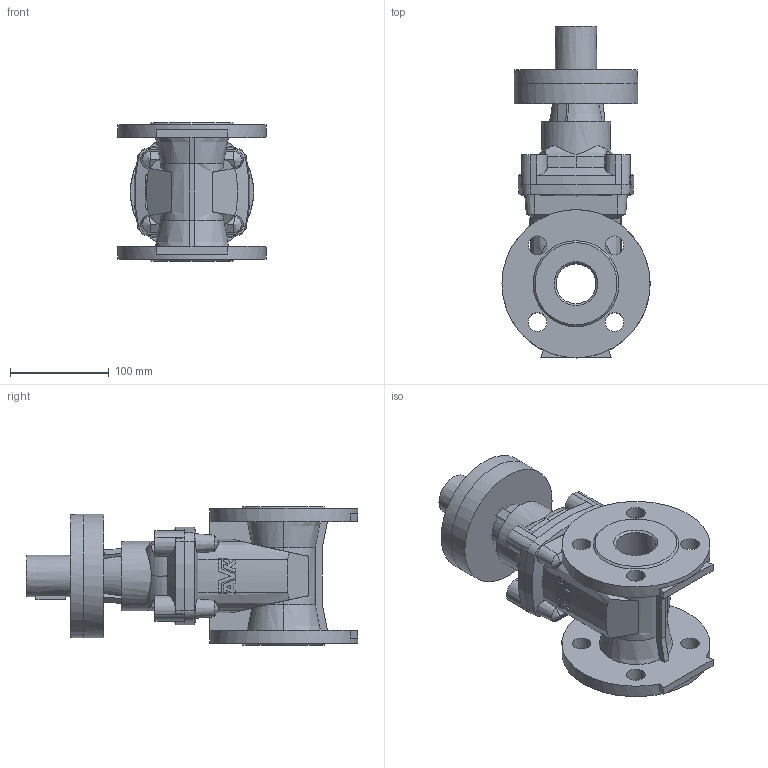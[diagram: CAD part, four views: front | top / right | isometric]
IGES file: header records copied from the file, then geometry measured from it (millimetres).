
Start section: SolidWorks IGES file using analytic representation for surfaces
Global section: file name: \\avksan2\techshare\PBM outline export from Enovia\O_15_40_DN040_X1X_AA0.igs; native system: SolidWorks 2012; preprocessor: SolidWorks 2012; author: pbm; date: 170310.085424; units: millimetre
Bounding box: 150 x 336 x 140 mm (x, y, z)
Surface area: 222088.9 mm2 (no closed solid volume)
Topology: 0 solids, 0 shells, 265 faces, 1428 edges, 1379 vertices
Faces by surface type: revolution 148, bspline 117
